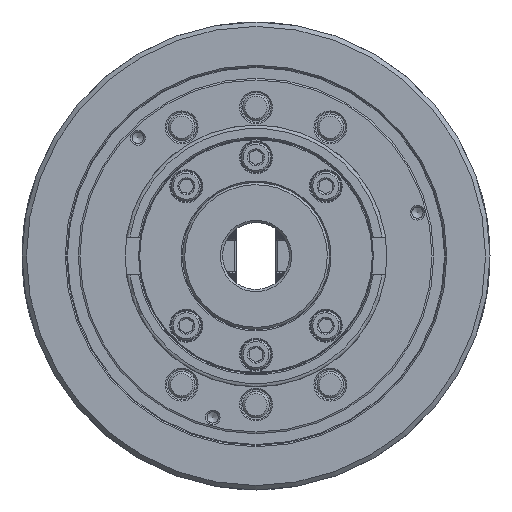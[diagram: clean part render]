
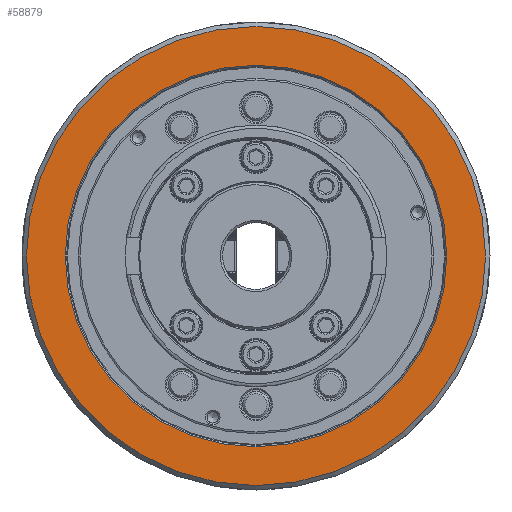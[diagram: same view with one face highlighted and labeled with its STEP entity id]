
A CAD part, left-side view. The second image highlights one B-rep face of the part: STEP entity #58879.
In plain terms, the highlighted planar face has unit normal (-1, 0, 0).
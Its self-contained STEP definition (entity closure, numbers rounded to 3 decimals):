
#5238 = CIRCLE ( 'NONE', #21224, 85.6 ) ;
#5334 = CIRCLE ( 'NONE', #17314, 103. ) ;
#8077 = EDGE_LOOP ( 'NONE', ( #45280 ) ) ;
#16836 = CARTESIAN_POINT ( 'NONE',  ( -91., 0., -85.6 ) ) ;
#17314 = AXIS2_PLACEMENT_3D ( 'NONE', #47983, #47564, #73062 ) ;
#21077 = EDGE_LOOP ( 'NONE', ( #78837 ) ) ;
#21224 = AXIS2_PLACEMENT_3D ( 'NONE', #30899, #56395, #76055 ) ;
#27174 = EDGE_CURVE ( 'NONE', #50557, #50557, #5238, .T. ) ;
#30899 = CARTESIAN_POINT ( 'NONE',  ( -91., 0., 0. ) ) ;
#45280 = ORIENTED_EDGE ( 'NONE', *, *, #72551, .F. ) ;
#46468 = PLANE ( 'NONE',  #50502 ) ;
#46899 = FACE_BOUND ( 'NONE', #21077, .T. ) ;
#47564 = DIRECTION ( 'NONE',  ( 1., 0., 0. ) ) ;
#47983 = CARTESIAN_POINT ( 'NONE',  ( -91., 0., 0. ) ) ;
#50502 = AXIS2_PLACEMENT_3D ( 'NONE', #77440, #71962, #77873 ) ;
#50557 = VERTEX_POINT ( 'NONE', #16836 ) ;
#56395 = DIRECTION ( 'NONE',  ( 1., 0., 0. ) ) ;
#58162 = FACE_OUTER_BOUND ( 'NONE', #8077, .T. ) ;
#58879 = ADVANCED_FACE ( 'NONE', ( #58162, #46899 ), #46468, .F. ) ;
#63778 = VERTEX_POINT ( 'NONE', #76410 ) ;
#71962 = DIRECTION ( 'NONE',  ( 1., 0., 0. ) ) ;
#72551 = EDGE_CURVE ( 'NONE', #63778, #63778, #5334, .T. ) ;
#73062 = DIRECTION ( 'NONE',  ( 0., 0., -1. ) ) ;
#76055 = DIRECTION ( 'NONE',  ( 0., 0., -1. ) ) ;
#76410 = CARTESIAN_POINT ( 'NONE',  ( -91., 0., -103. ) ) ;
#77440 = CARTESIAN_POINT ( 'NONE',  ( -91., -85.6, 0. ) ) ;
#77873 = DIRECTION ( 'NONE',  ( 0., 0., -1. ) ) ;
#78837 = ORIENTED_EDGE ( 'NONE', *, *, #27174, .T. ) ;
